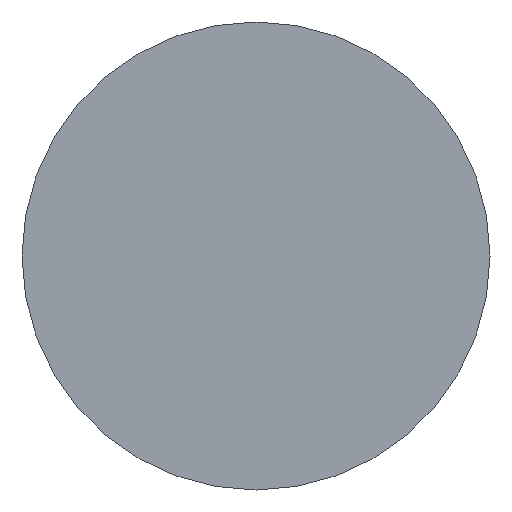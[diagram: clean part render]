
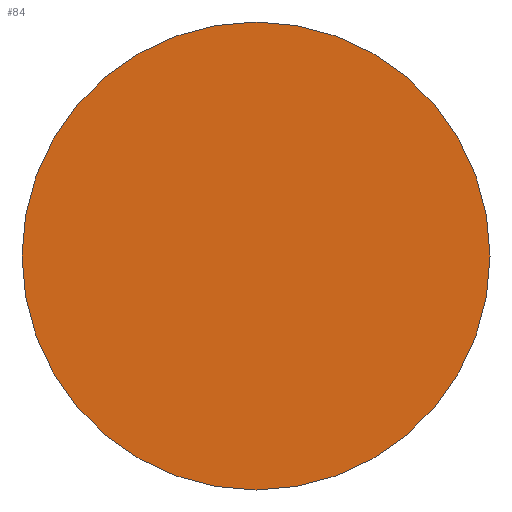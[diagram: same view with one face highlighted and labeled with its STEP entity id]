
A CAD part, front view. The second image highlights one B-rep face of the part: STEP entity #84.
In plain terms, the highlighted planar face has unit normal (0, -1, 0).
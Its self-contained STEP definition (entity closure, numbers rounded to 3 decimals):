
#1=CARTESIAN_POINT('',(0.,0.,0.));
#2=DIRECTION('',(0.,1.,0.));
#3=DIRECTION('',(1.,0.,0.));
#4=AXIS2_PLACEMENT_3D('',#1,#2,#3);
#6=CARTESIAN_POINT('',(0.,0.,0.));
#7=DIRECTION('',(0.,1.,0.));
#8=DIRECTION('',(-1.,0.,0.));
#9=AXIS2_PLACEMENT_3D('',#6,#7,#8);
#57=CARTESIAN_POINT('',(11.,0.,0.));
#58=CARTESIAN_POINT('',(-11.,0.,0.));
#59=VERTEX_POINT('',#57);
#60=VERTEX_POINT('',#58);
#73=CARTESIAN_POINT('',(0.,0.,0.));
#74=DIRECTION('',(0.,1.,0.));
#75=DIRECTION('',(1.,0.,0.));
#76=AXIS2_PLACEMENT_3D('',#73,#74,#75);
#77=PLANE('',#76);
#79=ORIENTED_EDGE('',*,*,#78,.T.);
#81=ORIENTED_EDGE('',*,*,#80,.T.);
#82=EDGE_LOOP('',(#79,#81));
#83=FACE_OUTER_BOUND('',#82,.F.);
#84=ADVANCED_FACE('',(#83),#77,.F.);
#5=CIRCLE('',#4,11.);
#10=CIRCLE('',#9,11.);
#78=EDGE_CURVE('',#59,#60,#5,.T.);
#80=EDGE_CURVE('',#60,#59,#10,.T.);
